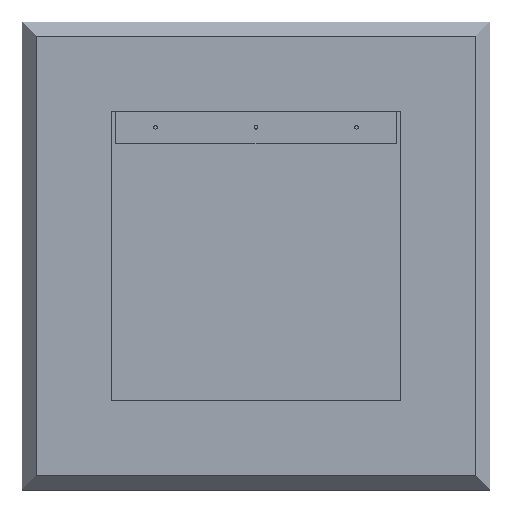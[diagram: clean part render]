
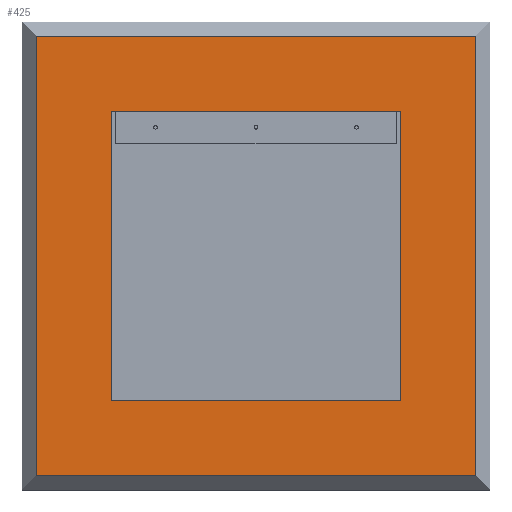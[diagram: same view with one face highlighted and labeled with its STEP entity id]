
A CAD part, top view. The second image highlights one B-rep face of the part: STEP entity #425.
In plain terms, the highlighted planar face has unit normal (0, 0, 1).
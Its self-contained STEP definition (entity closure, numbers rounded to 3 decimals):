
#1 = VERTEX_POINT ( 'NONE', #214 ) ;
#84 = DIRECTION ( 'NONE',  ( 0., -1., 0. ) ) ;
#85 = CARTESIAN_POINT ( 'NONE',  ( 154., -154., 19. ) ) ;
#122 = CARTESIAN_POINT ( 'NONE',  ( -249., 234., 19. ) ) ;
#148 = DIRECTION ( 'NONE',  ( 1., 0., 0. ) ) ;
#164 = LINE ( 'NONE', #1195, #1416 ) ;
#214 = CARTESIAN_POINT ( 'NONE',  ( -154., -154., 19. ) ) ;
#219 = FACE_BOUND ( 'NONE', #821, .T. ) ;
#251 = VERTEX_POINT ( 'NONE', #1073 ) ;
#296 = CARTESIAN_POINT ( 'NONE',  ( -154., 154., 19. ) ) ;
#322 = DIRECTION ( 'NONE',  ( 1., 0., 0. ) ) ;
#323 = VERTEX_POINT ( 'NONE', #329 ) ;
#329 = CARTESIAN_POINT ( 'NONE',  ( 234., -234., 19. ) ) ;
#331 = EDGE_CURVE ( 'NONE', #1146, #763, #769, .T. ) ;
#363 = EDGE_LOOP ( 'NONE', ( #1067, #1240, #495, #449 ) ) ;
#416 = CARTESIAN_POINT ( 'NONE',  ( 154., 154., 19. ) ) ;
#425 = ADVANCED_FACE ( 'NONE', ( #684, #219 ), #1461, .T. ) ;
#449 = ORIENTED_EDGE ( 'NONE', *, *, #1349, .T. ) ;
#450 = EDGE_CURVE ( 'NONE', #675, #1, #1109, .T. ) ;
#456 = CARTESIAN_POINT ( 'NONE',  ( 0., 0., 19. ) ) ;
#467 = DIRECTION ( 'NONE',  ( 1., 0., 0. ) ) ;
#495 = ORIENTED_EDGE ( 'NONE', *, *, #841, .T. ) ;
#499 = VECTOR ( 'NONE', #1112, 1000. ) ;
#515 = VECTOR ( 'NONE', #995, 1000. ) ;
#533 = EDGE_CURVE ( 'NONE', #251, #951, #809, .T. ) ;
#538 = CARTESIAN_POINT ( 'NONE',  ( -154., 154., 19. ) ) ;
#560 = LINE ( 'NONE', #1135, #1040 ) ;
#583 = LINE ( 'NONE', #1023, #776 ) ;
#591 = CARTESIAN_POINT ( 'NONE',  ( 154., 154., 19. ) ) ;
#592 = DIRECTION ( 'NONE',  ( -1., 0., 0. ) ) ;
#614 = ORIENTED_EDGE ( 'NONE', *, *, #1468, .F. ) ;
#660 = ORIENTED_EDGE ( 'NONE', *, *, #331, .F. ) ;
#675 = VERTEX_POINT ( 'NONE', #296 ) ;
#684 = FACE_OUTER_BOUND ( 'NONE', #363, .T. ) ;
#698 = CARTESIAN_POINT ( 'NONE',  ( -234., 234., 19. ) ) ;
#763 = VERTEX_POINT ( 'NONE', #416 ) ;
#769 = LINE ( 'NONE', #85, #1263 ) ;
#776 = VECTOR ( 'NONE', #467, 1000. ) ;
#795 = VECTOR ( 'NONE', #811, 1000. ) ;
#809 = LINE ( 'NONE', #122, #931 ) ;
#811 = DIRECTION ( 'NONE',  ( -1., 0., 0. ) ) ;
#821 = EDGE_LOOP ( 'NONE', ( #614, #1427, #1078, #660 ) ) ;
#841 = EDGE_CURVE ( 'NONE', #951, #882, #560, .T. ) ;
#881 = CARTESIAN_POINT ( 'NONE',  ( 234., 249., 19. ) ) ;
#882 = VERTEX_POINT ( 'NONE', #1347 ) ;
#894 = DIRECTION ( 'NONE',  ( 0., 0., 1. ) ) ;
#931 = VECTOR ( 'NONE', #592, 1000. ) ;
#951 = VERTEX_POINT ( 'NONE', #698 ) ;
#995 = DIRECTION ( 'NONE',  ( 0., -1., 0. ) ) ;
#1021 = EDGE_CURVE ( 'NONE', #763, #675, #1037, .T. ) ;
#1023 = CARTESIAN_POINT ( 'NONE',  ( 249., -234., 19. ) ) ;
#1037 = LINE ( 'NONE', #591, #795 ) ;
#1040 = VECTOR ( 'NONE', #84, 1000. ) ;
#1067 = ORIENTED_EDGE ( 'NONE', *, *, #1201, .T. ) ;
#1068 = CARTESIAN_POINT ( 'NONE',  ( 154., -154., 19. ) ) ;
#1073 = CARTESIAN_POINT ( 'NONE',  ( 234., 234., 19. ) ) ;
#1078 = ORIENTED_EDGE ( 'NONE', *, *, #1021, .F. ) ;
#1109 = LINE ( 'NONE', #538, #515 ) ;
#1112 = DIRECTION ( 'NONE',  ( 0., 1., 0. ) ) ;
#1118 = AXIS2_PLACEMENT_3D ( 'NONE', #456, #894, #322 ) ;
#1130 = LINE ( 'NONE', #881, #499 ) ;
#1135 = CARTESIAN_POINT ( 'NONE',  ( -234., -249., 19. ) ) ;
#1146 = VERTEX_POINT ( 'NONE', #1068 ) ;
#1195 = CARTESIAN_POINT ( 'NONE',  ( -154., -154., 19. ) ) ;
#1201 = EDGE_CURVE ( 'NONE', #323, #251, #1130, .T. ) ;
#1224 = DIRECTION ( 'NONE',  ( 0., 1., 0. ) ) ;
#1240 = ORIENTED_EDGE ( 'NONE', *, *, #533, .T. ) ;
#1263 = VECTOR ( 'NONE', #1224, 1000. ) ;
#1347 = CARTESIAN_POINT ( 'NONE',  ( -234., -234., 19. ) ) ;
#1349 = EDGE_CURVE ( 'NONE', #882, #323, #583, .T. ) ;
#1416 = VECTOR ( 'NONE', #148, 1000. ) ;
#1427 = ORIENTED_EDGE ( 'NONE', *, *, #450, .F. ) ;
#1461 = PLANE ( 'NONE',  #1118 ) ;
#1468 = EDGE_CURVE ( 'NONE', #1, #1146, #164, .T. ) ;
